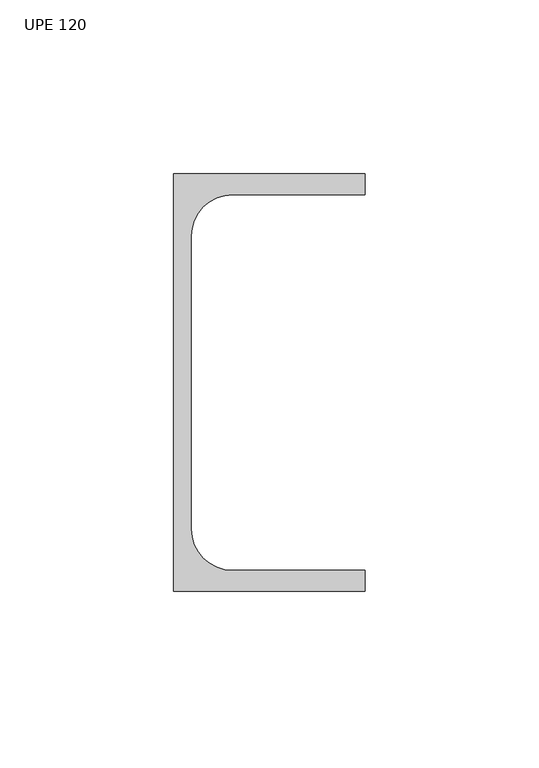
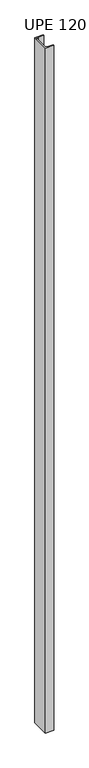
"""IFC4 building model written with IfcOpenShell, lengths in millimetres: column geometry, UPE - Canales de ala paralela - Pilar : UPE 120."""

from ifc_helpers import new_model, si_unit, point, frame_2d, origin, origin_with_axes, place, context, project, spatial, polyline, circle_curve, trimmed, segment, composite_curve, outline, extrude, source, transform, mapped, element, save


def upe_120_8100fb59(model_context):
    return source(origin(), model_context, "Body", "SweptSolid", [
        extrude(outline(composite_curve([segment(polyline([(-19.8, -60.0), (-19.8, 60.0), (35.2, 60.0), (35.2, 54.0), (-2.8, 54.0)]), True, "CONTINUOUS"), segment(trimmed(circle_curve(frame_2d((-2.8, 42.0)), 12.0), [point((-2.8, 54.0))], [point((-14.8, 42.0))], True, "CARTESIAN"), True, "CONTINUOUS"), segment(polyline([(-14.8, 42.0), (-14.8, -42.0)]), True, "CONTINUOUS"), segment(trimmed(circle_curve(frame_2d((-2.8, -42.0)), 12.0), [point((-14.8, -42.0))], [point((-2.8, -54.0))], True, "CARTESIAN"), True, "CONTINUOUS"), segment(polyline([(-2.8, -54.0), (35.2, -54.0), (35.2, -60.0), (-19.8, -60.0)]), True, "CONTINUOUS")], self_intersect=False)), origin_with_axes(), (0.0, 0.0, 1.0), 4780.0),
    ])


if __name__ == "__main__":
    model = new_model("IFC4")
    model_context = context("Model", 3, world=origin())
    ifc_project = project(units=[si_unit("LENGTHUNIT", "METRE", prefix="MILLI")], contexts=[model_context])
    site = spatial("IfcSite", under=ifc_project)
    building = spatial("IfcBuilding", under=site)
    placement = place(None, origin())
    upe_120_shape = upe_120_8100fb59(model_context)
    element("IfcColumn", 1, ObjectType="UPE - Canales de ala paralela - Pilar : UPE 120", at=placement, inside=building, context=model_context, shape_type="MappedRepresentation", body=[
        mapped(upe_120_shape, transform((0.0, 0.0, 0.0), x_axis=(1.0, 0.0, 0.0), y_axis=(0.0, 1.0, 0.0), z_axis=(0.0, 0.0, 1.0))),
    ])
    save(model, "model.ifc")
